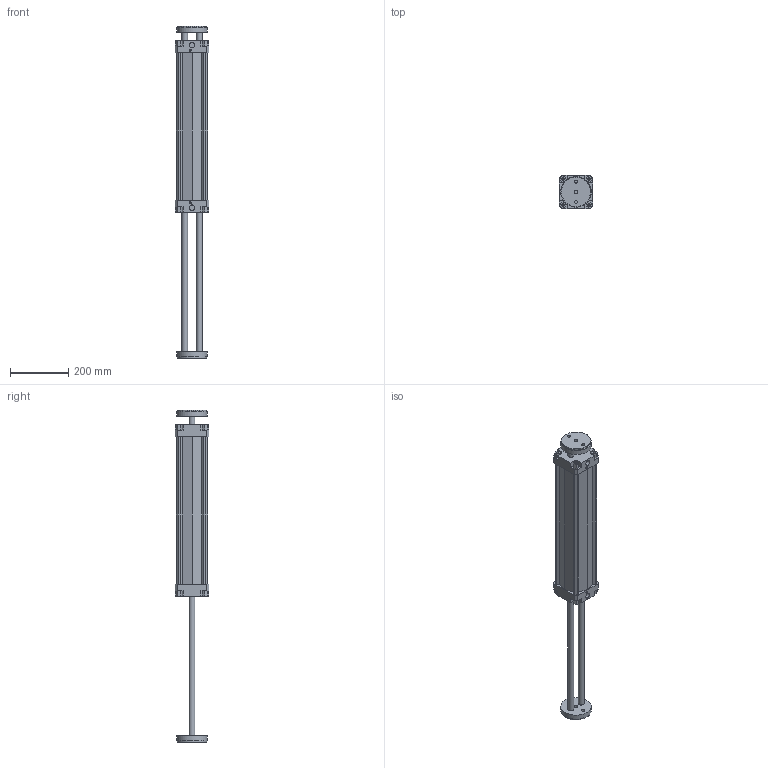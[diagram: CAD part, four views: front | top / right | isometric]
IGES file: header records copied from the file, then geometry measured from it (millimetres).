
Global section: file name: 132#_100_0450_06; native system: Autodesk Inventor 2014; preprocessor: unknown; author: A. Manieri; date: 20161006.163819; units: millimetre
Bounding box: 115 x 115 x 1140 mm (x, y, z)
Volume: 3651739 mm3; surface area: 708191.5 mm2
Topology: 2 solids, 2 shells, 190 faces, 518 edges, 354 vertices
Faces by surface type: bspline 190
